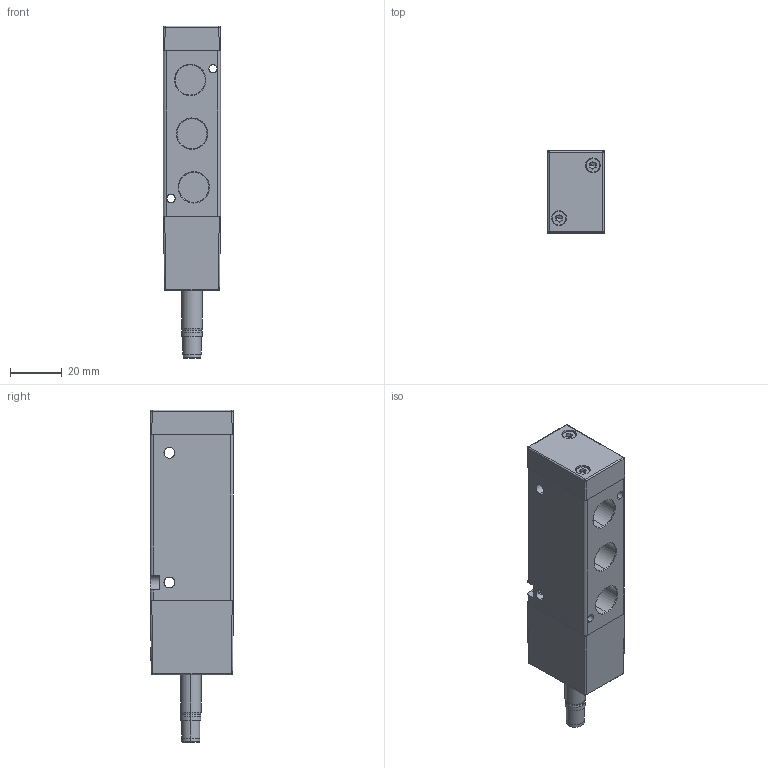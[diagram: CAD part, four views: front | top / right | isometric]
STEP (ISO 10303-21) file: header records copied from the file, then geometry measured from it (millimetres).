
FILE_DESCRIPTION (( 'STEP AP203' ), '1' );
FILE_NAME ('K52W101.4.STEP', '2006-01-31T13:06:10', ( 'Vesta Automation srl' ), ( 'Vesta Automation srl' ), 'SwSTEP 2.0', 'SolidWorks 2005187', '' );
FILE_SCHEMA (( 'CONFIG_CONTROL_DESIGN' ));
Length unit declared in the file: millimetre
Products named in the file (1): K52W101.4
Bounding box: 22 x 32 x 128 mm (x, y, z)
Volume: 54859.5 mm3; surface area: 22307.9 mm2
Topology: 1 solids, 7 shells, 680 faces, 1711 edges, 1086 vertices
Faces by surface type: plane 392, cylinder 159, cone 54, bspline 47, torus 24, sphere 4
Entity records: 24445 total; most frequent: CARTESIAN_POINT 8187, ORIENTED_EDGE 3406, DIRECTION 3248, EDGE_CURVE 1703, LINE 1134, VECTOR 1134, VERTEX_POINT 1086, AXIS2_PLACEMENT_3D 1057
